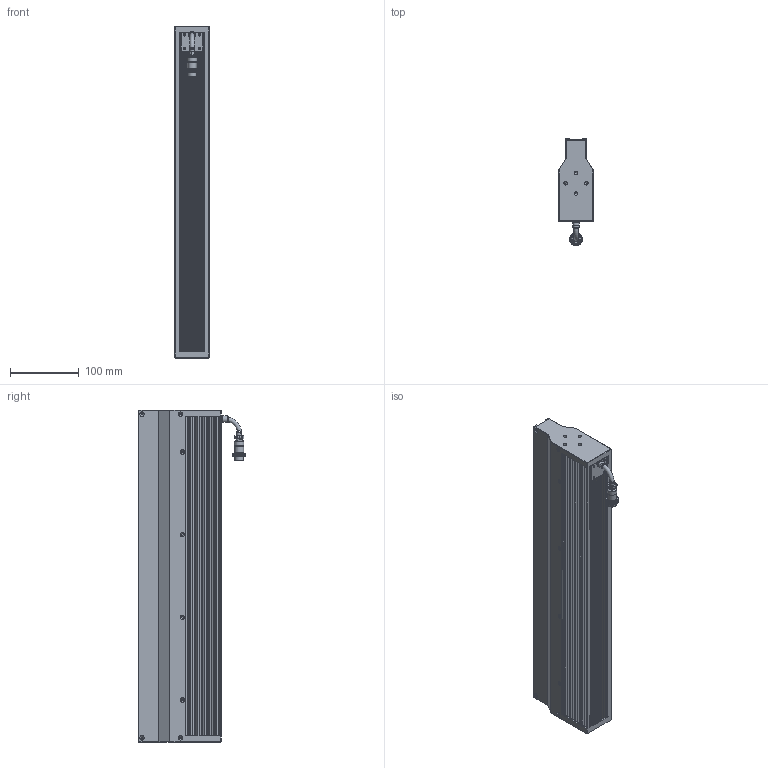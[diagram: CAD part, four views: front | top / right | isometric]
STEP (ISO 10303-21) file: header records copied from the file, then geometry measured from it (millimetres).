
FILE_DESCRIPTION (( 'STEP AP203' ), '1' );
FILE_NAME ('OPT-LSNL482-W-V1.1U尨砩芞.STEP', '2025-02-18T02:37:36', ( '' ), ( '' ), 'SwSTEP 2.0', 'SolidWorks 2016', '' );
FILE_SCHEMA (( 'CONFIG_CONTROL_DESIGN' ));
Products named in the file (1): OPT-LSNL482-W-V1.1U尨砩芞
Bounding box: 50.02 x 155.15 x 482 mm (x, y, z)
Volume: 1757269.8 mm3; surface area: 599168.9 mm2
Topology: 6 solids, 11 shells, 3620 faces, 8241 edges, 4653 vertices
Faces by surface type: bspline 2059, cylinder 761, plane 753, cone 39, torus 8
Full cylindrical faces by diameter (mm): 0.95 x6, 1.1 x2, 1.4 x2, 2 x4, 2.5 x10, 3 x12, 3.4 x16, 3.5 x4, 5 x8, 6.4 x3, 7.5 x1, 8.6 x1, 9.3 x1, 9.8 x1, 10 x1, 13.2 x1, 14 x1, 16.1 x1
Entity records: 126354 total; most frequent: CARTESIAN_POINT 64642, ORIENTED_EDGE 16114, EDGE_CURVE 8057, DIRECTION 6030, B_SPLINE_CURVE_WITH_KNOTS 5578, VERTEX_POINT 4595, EDGE_LOOP 3816, FACE_OUTER_BOUND 3703
